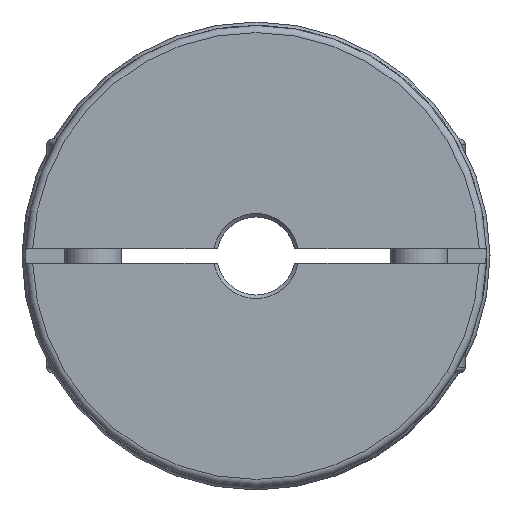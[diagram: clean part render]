
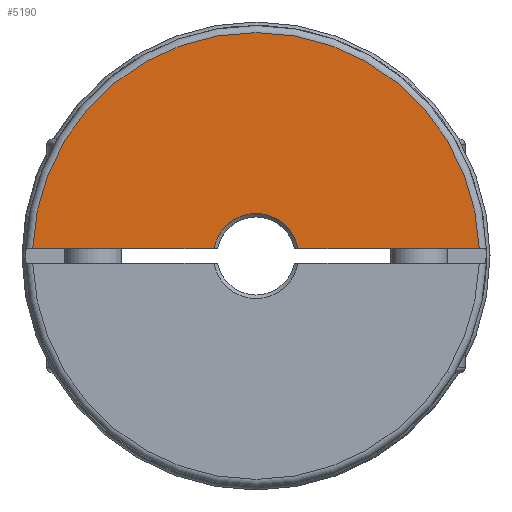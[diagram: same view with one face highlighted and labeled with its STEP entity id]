
A CAD part, left-side view. The second image highlights one B-rep face of the part: STEP entity #5190.
In plain terms, the highlighted planar face has unit normal (-1, 0, 0).
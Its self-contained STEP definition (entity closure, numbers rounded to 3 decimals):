
#80=LINE('',#7489,#216);
#89=LINE('',#7516,#225);
#216=VECTOR('',#6065,1000.);
#225=VECTOR('',#6078,1000.);
#408=PLANE('',#5518);
#711=ORIENTED_EDGE('',*,*,#1476,.T.);
#712=ORIENTED_EDGE('',*,*,#1415,.T.);
#713=ORIENTED_EDGE('',*,*,#1465,.F.);
#714=ORIENTED_EDGE('',*,*,#1496,.F.);
#1415=EDGE_CURVE('',#1842,#1840,#2172,.T.);
#1465=EDGE_CURVE('',#1887,#1840,#80,.T.);
#1476=EDGE_CURVE('',#1893,#1842,#89,.T.);
#1496=EDGE_CURVE('',#1893,#1887,#2214,.T.);
#1840=VERTEX_POINT('',#7111);
#1842=VERTEX_POINT('',#7114);
#1887=VERTEX_POINT('',#7490);
#1893=VERTEX_POINT('',#7517);
#2172=CIRCLE('',#5437,6.);
#2214=CIRCLE('',#5507,31.5);
#2471=EDGE_LOOP('',(#711,#712,#713,#714));
#2903=FACE_BOUND('',#2471,.T.);
#5190=ADVANCED_FACE('',(#2903),#408,.F.);
#5437=AXIS2_PLACEMENT_3D('',#7113,#5965,#5966);
#5507=AXIS2_PLACEMENT_3D('',#7565,#6125,#6126);
#5518=AXIS2_PLACEMENT_3D('',#7576,#6147,#6148);
#5965=DIRECTION('',(1.,0.,0.));
#5966=DIRECTION('',(0.,-1.,0.));
#6065=DIRECTION('',(0.,1.,0.));
#6078=DIRECTION('',(0.,-1.,0.));
#6125=DIRECTION('',(1.,0.,0.));
#6126=DIRECTION('',(0.,-1.,0.));
#6147=DIRECTION('',(1.,0.,0.));
#6148=DIRECTION('',(0.,-1.,0.));
#7111=CARTESIAN_POINT('',(-28.637,-5.916,1.));
#7113=CARTESIAN_POINT('',(-28.637,0.,0.));
#7114=CARTESIAN_POINT('',(-28.637,5.916,1.));
#7489=CARTESIAN_POINT('',(-28.637,32.5,1.));
#7490=CARTESIAN_POINT('',(-28.637,-31.484,1.));
#7516=CARTESIAN_POINT('',(-28.637,32.5,1.));
#7517=CARTESIAN_POINT('',(-28.637,31.484,1.));
#7565=CARTESIAN_POINT('',(-28.637,0.,0.));
#7576=CARTESIAN_POINT('',(-28.637,32.5,0.));
